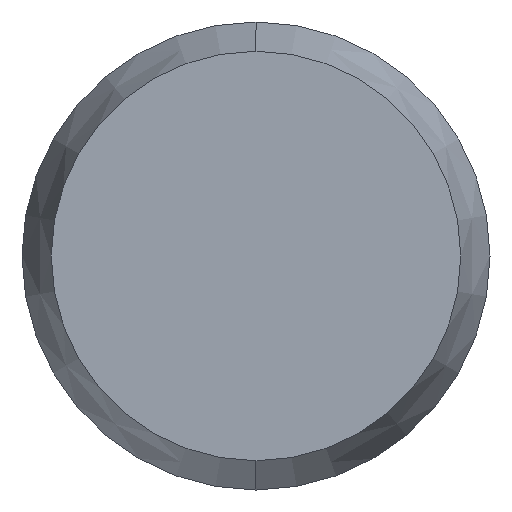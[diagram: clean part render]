
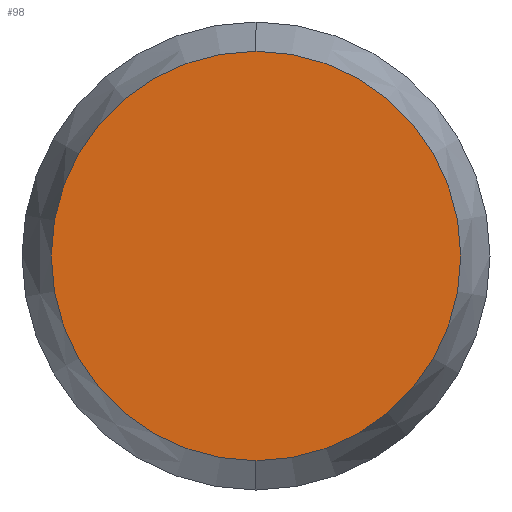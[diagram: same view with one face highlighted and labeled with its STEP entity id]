
A CAD part, left-side view. The second image highlights one B-rep face of the part: STEP entity #98.
In plain terms, the highlighted planar face has unit normal (-1, 0, 0).
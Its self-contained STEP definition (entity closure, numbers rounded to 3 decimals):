
#24 = PLANE ( 'NONE',  #686 ) ;
#49 = DIRECTION ( 'NONE',  ( 0., 0., 1. ) ) ;
#98 = ADVANCED_FACE ( 'NONE', ( #408 ), #24, .F. ) ;
#124 = DIRECTION ( 'NONE',  ( 0., 0., 1. ) ) ;
#177 = VERTEX_POINT ( 'NONE', #685 ) ;
#191 = EDGE_CURVE ( 'NONE', #177, #278, #285, .T. ) ;
#201 = ORIENTED_EDGE ( 'NONE', *, *, #191, .T. ) ;
#230 = DIRECTION ( 'NONE',  ( 1., 0., 0. ) ) ;
#276 = ORIENTED_EDGE ( 'NONE', *, *, #549, .T. ) ;
#278 = VERTEX_POINT ( 'NONE', #766 ) ;
#285 = CIRCLE ( 'NONE', #396, 3.5 ) ;
#326 = DIRECTION ( 'NONE',  ( -1., 0., 0. ) ) ;
#396 = AXIS2_PLACEMENT_3D ( 'NONE', #827, #495, #49 ) ;
#408 = FACE_OUTER_BOUND ( 'NONE', #574, .T. ) ;
#440 = AXIS2_PLACEMENT_3D ( 'NONE', #832, #326, #124 ) ;
#495 = DIRECTION ( 'NONE',  ( -1., 0., 0. ) ) ;
#541 = CIRCLE ( 'NONE', #440, 3.5 ) ;
#549 = EDGE_CURVE ( 'NONE', #278, #177, #541, .T. ) ;
#574 = EDGE_LOOP ( 'NONE', ( #276, #201 ) ) ;
#611 = CARTESIAN_POINT ( 'NONE',  ( 0., 0., 0. ) ) ;
#685 = CARTESIAN_POINT ( 'NONE',  ( 0., 0., 3.5 ) ) ;
#686 = AXIS2_PLACEMENT_3D ( 'NONE', #611, #230, #793 ) ;
#766 = CARTESIAN_POINT ( 'NONE',  ( 0., 0., -3.5 ) ) ;
#793 = DIRECTION ( 'NONE',  ( 0., 0., -1. ) ) ;
#827 = CARTESIAN_POINT ( 'NONE',  ( 0., 0., 0. ) ) ;
#832 = CARTESIAN_POINT ( 'NONE',  ( 0., 0., 0. ) ) ;
